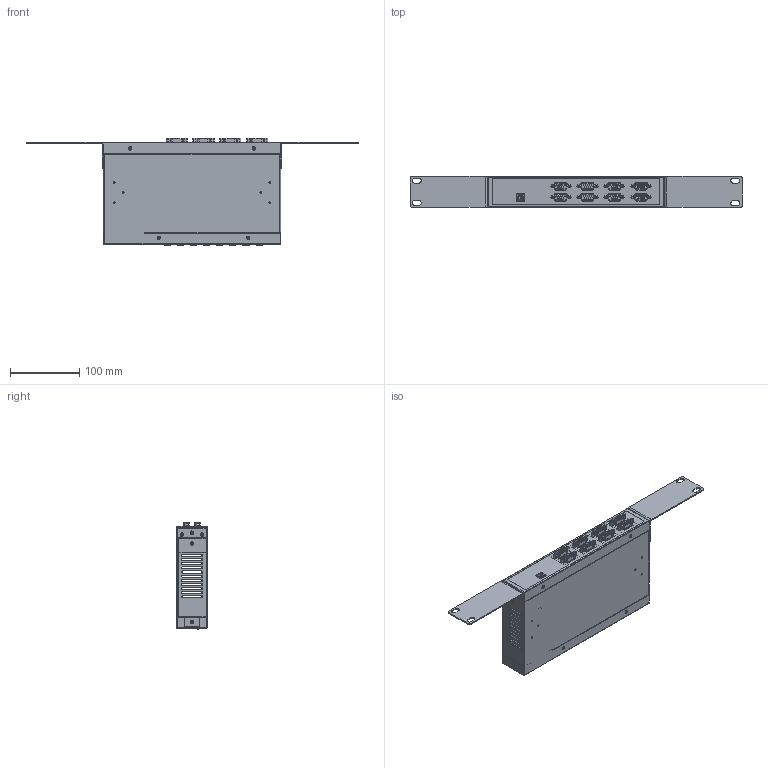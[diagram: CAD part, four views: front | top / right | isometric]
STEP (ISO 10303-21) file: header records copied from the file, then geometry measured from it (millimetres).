
FILE_DESCRIPTION(/* description */ (''),/* implementation_level */ '2;1');
FILE_NAME(/* name */ '/Users/leo/Desktop/Coolgear May/USB-8COMi-RM/USB-8COMi-RM Model3d LPV1.step',/* time_stamp */ '2021-09-15T17:14:18-04:00',/* author */ (''),/* organization */ (''),/* preprocessor_version */ 'ST-DEVELOPER v18.1',/* originating_system */ 'Autodesk Translation Framework v10.10.0.1391',/* authorisation */ '');
FILE_SCHEMA (('AUTOMOTIVE_DESIGN { 1 0 10303 214 3 1 1 }'));
Products named in the file (18): USB-8COMi-RM; Component1; 93090A547_Press-Fit Threaded Standoffs; 93090A547_Press-Fit Threaded Standoffs (1); Terminator v1; 1333N21_IEC Connector; USB type B first Gen White v3; Housing1; pin1; shielding; pin2; shielding_2; Housing3; Serial Port v1; Component18; Component19; Bolt M3X0.5 100Angle 5mmHead.5 China 120ang METRIC 18-8 SS FLAT HEAD 
PHIL MACHINE SCREW v2; Component21
Assembly tree (46 placements, depth 3):
  USB-8COMi-RM
    Component1
    93090A547_Press-Fit Threaded Standoffs  x5
    93090A547_Press-Fit Threaded Standoffs (1)  x3
    Terminator v1  x8
    1333N21_IEC Connector
    USB type B first Gen White v3
      Housing1
      pin1  x2
      shielding
      pin2  x2
      shielding_2
      Housing3
    Serial Port v1  x8
    Component18
    Component19
    Bolt M3X0.5 100Angle 5mmHead.5 China 120ang METRIC 18-8 SS FLAT HEAD 
PHIL MACHINE SCREW v2  x8
    Component21
Bounding box: 480.1 x 44.8 x 155.08 mm (x, y, z)
Volume: 222028.9 mm3; surface area: 356156.1 mm2
Topology: 3 solids, 9 shells, 4193 faces, 11328 edges, 7343 vertices
Faces by surface type: plane 2947, cylinder 866, cone 174, torus 86, sphere 72, bspline 48
Full cylindrical faces by diameter (mm): 1 x72, 1.65 x3, 2 x3, 2.35 x32, 2.529 x20, 2.6 x16, 2.8 x16, 3 x56, 3.5 x8, 4.765 x3, 5.4 x8
Entity records: 150327 total; most frequent: CARTESIAN_POINT 44358, ORIENTED_EDGE 22480, DIRECTION 20727, EDGE_CURVE 11240, LINE 8559, VECTOR 8559, VERTEX_POINT 7343, AXIS2_PLACEMENT_3D 6084
